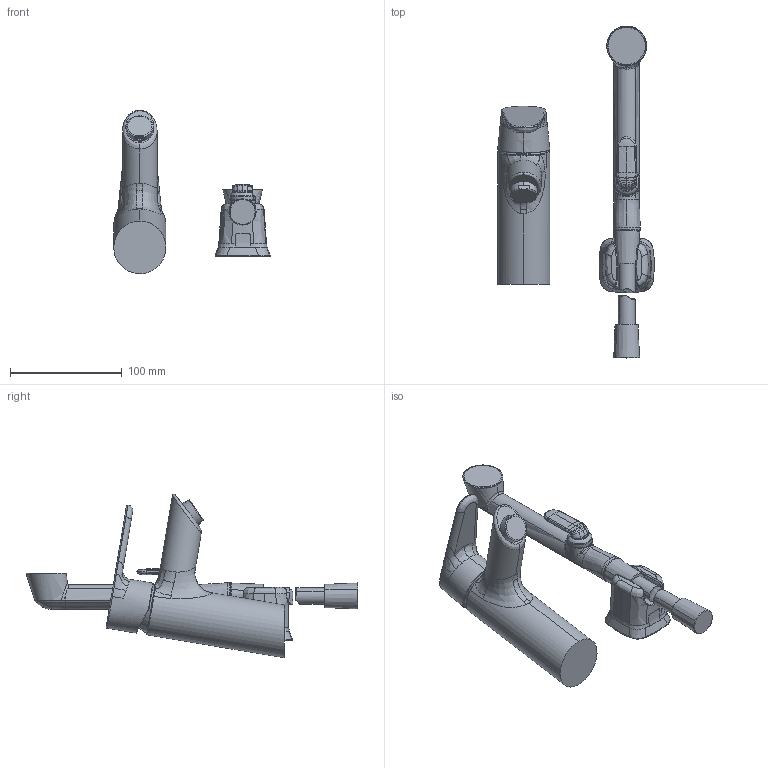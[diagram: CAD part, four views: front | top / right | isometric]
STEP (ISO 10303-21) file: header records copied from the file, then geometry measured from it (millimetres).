
FILE_DESCRIPTION (( 'STEP AP203' ), '1' );
FILE_NAME ('2612F-105(2022).STEP', '2022-11-04T09:49:02', ( '' ), ( '' ), 'SwSTEP 2.0', 'SolidWorks 2016', '' );
FILE_SCHEMA (( 'CONFIG_CONTROL_DESIGN' ));
Products named in the file (1): 2612F-105(2022)
Bounding box: 139.83 x 296.68 x 146.19 mm (x, y, z)
Surface area: 82593.9 mm2 (no closed solid volume)
Topology: 0 solids, 11 shells, 366 faces, 886 edges, 543 vertices
Faces by surface type: bspline 279, cone 29, cylinder 25, plane 25, torus 8
Entity records: 77839 total; most frequent: CARTESIAN_POINT 71550, ORIENTED_EDGE 1767, EDGE_CURVE 884, DIRECTION 603, VERTEX_POINT 543, B_SPLINE_CURVE_WITH_KNOTS 512, EDGE_LOOP 370, ADVANCED_FACE 366
